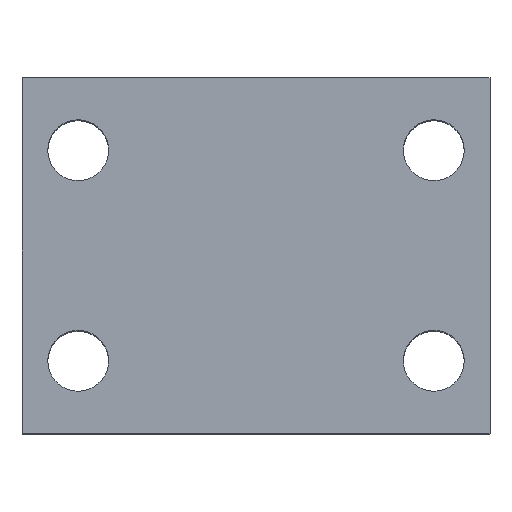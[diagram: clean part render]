
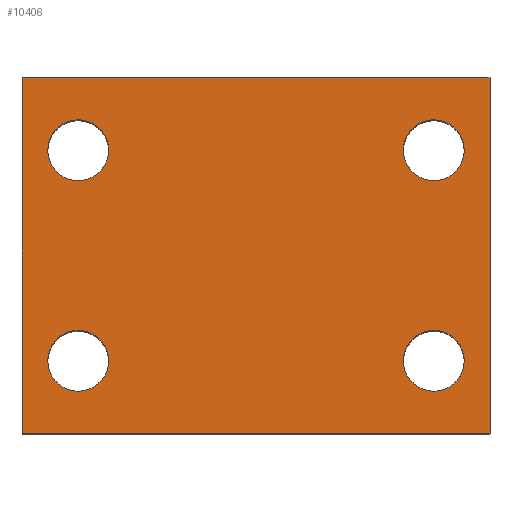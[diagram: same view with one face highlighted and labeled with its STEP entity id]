
A CAD part, top view. The second image highlights one B-rep face of the part: STEP entity #10406.
In plain terms, the highlighted planar face has unit normal (0, 0, 1).
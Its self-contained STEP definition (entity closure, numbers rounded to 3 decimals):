
#95 = CARTESIAN_POINT ( 'NONE',  ( 50., 76., 47.5 ) ) ;
#120 = EDGE_LOOP ( 'NONE', ( #12432, #2793 ) ) ;
#144 = AXIS2_PLACEMENT_3D ( 'NONE', #7299, #1487, #8209 ) ;
#148 = AXIS2_PLACEMENT_3D ( 'NONE', #9127, #3470, #10070 ) ;
#190 = AXIS2_PLACEMENT_3D ( 'NONE', #11857, #6432, #449 ) ;
#202 = AXIS2_PLACEMENT_3D ( 'NONE', #2963, #7089, #10359 ) ;
#217 = AXIS2_PLACEMENT_3D ( 'NONE', #349, #7261, #1444 ) ;
#244 = CARTESIAN_POINT ( 'NONE',  ( -50., 76., 47.5 ) ) ;
#271 = AXIS2_PLACEMENT_3D ( 'NONE', #1449, #8168, #2463 ) ;
#290 = VERTEX_POINT ( 'NONE', #7504 ) ;
#349 = CARTESIAN_POINT ( 'NONE',  ( -38., 60.5, 47.5 ) ) ;
#360 = AXIS2_PLACEMENT_3D ( 'NONE', #6889, #998, #7795 ) ;
#442 = CARTESIAN_POINT ( 'NONE',  ( 44.5, 15.5, 47.5 ) ) ;
#449 = DIRECTION ( 'NONE',  ( -1., 0., 0. ) ) ;
#464 = AXIS2_PLACEMENT_3D ( 'NONE', #8250, #2565, #9226 ) ;
#579 = VERTEX_POINT ( 'NONE', #95 ) ;
#600 = VERTEX_POINT ( 'NONE', #6963 ) ;
#998 = DIRECTION ( 'NONE',  ( 0., 0., -1. ) ) ;
#1107 = ORIENTED_EDGE ( 'NONE', *, *, #7814, .T. ) ;
#1126 = CIRCLE ( 'NONE', #202, 6.5 ) ;
#1250 = VECTOR ( 'NONE', #10165, 1000. ) ;
#1378 = ORIENTED_EDGE ( 'NONE', *, *, #7909, .T. ) ;
#1444 = DIRECTION ( 'NONE',  ( -1., 0., 0. ) ) ;
#1449 = CARTESIAN_POINT ( 'NONE',  ( -38., 15.5, 47.5 ) ) ;
#1487 = DIRECTION ( 'NONE',  ( 0., 0., -1. ) ) ;
#1528 = CARTESIAN_POINT ( 'NONE',  ( 50., 76., 47.5 ) ) ;
#1585 = CIRCLE ( 'NONE', #190, 6.5 ) ;
#1661 = AXIS2_PLACEMENT_3D ( 'NONE', #3100, #5115, #11570 ) ;
#1709 = FACE_BOUND ( 'NONE', #8834, .T. ) ;
#1853 = CARTESIAN_POINT ( 'NONE',  ( 44.5, 60.5, 47.5 ) ) ;
#1906 = CIRCLE ( 'NONE', #144, 6.5 ) ;
#2036 = FACE_BOUND ( 'NONE', #2037, .T. ) ;
#2037 = EDGE_LOOP ( 'NONE', ( #1378, #6553 ) ) ;
#2199 = ORIENTED_EDGE ( 'NONE', *, *, #5553, .F. ) ;
#2214 = VECTOR ( 'NONE', #12443, 1000. ) ;
#2268 = VERTEX_POINT ( 'NONE', #442 ) ;
#2426 = ORIENTED_EDGE ( 'NONE', *, *, #7893, .T. ) ;
#2463 = DIRECTION ( 'NONE',  ( -1., 0., 0. ) ) ;
#2547 = LINE ( 'NONE', #244, #2214 ) ;
#2565 = DIRECTION ( 'NONE',  ( 0., 0., -1. ) ) ;
#2743 = ORIENTED_EDGE ( 'NONE', *, *, #5965, .T. ) ;
#2793 = ORIENTED_EDGE ( 'NONE', *, *, #6068, .T. ) ;
#2894 = CIRCLE ( 'NONE', #148, 6.5 ) ;
#2963 = CARTESIAN_POINT ( 'NONE',  ( 38., 15.5, 47.5 ) ) ;
#3100 = CARTESIAN_POINT ( 'NONE',  ( -50., 76., 47.5 ) ) ;
#3470 = DIRECTION ( 'NONE',  ( 0., 0., -1. ) ) ;
#3646 = VERTEX_POINT ( 'NONE', #4875 ) ;
#3770 = ORIENTED_EDGE ( 'NONE', *, *, #7926, .F. ) ;
#3987 = ORIENTED_EDGE ( 'NONE', *, *, #6171, .T. ) ;
#4103 = VERTEX_POINT ( 'NONE', #12014 ) ;
#4238 = CIRCLE ( 'NONE', #464, 6.5 ) ;
#4364 = FACE_BOUND ( 'NONE', #9662, .T. ) ;
#4623 = CARTESIAN_POINT ( 'NONE',  ( -31.5, 60.5, 47.5 ) ) ;
#4875 = CARTESIAN_POINT ( 'NONE',  ( -50., 0., 47.5 ) ) ;
#5115 = DIRECTION ( 'NONE',  ( 0., 0., -1. ) ) ;
#5176 = LINE ( 'NONE', #6585, #12220 ) ;
#5269 = CARTESIAN_POINT ( 'NONE',  ( -50., 76., 47.5 ) ) ;
#5553 = EDGE_CURVE ( 'NONE', #12223, #579, #5176, .T. ) ;
#5965 = EDGE_CURVE ( 'NONE', #6824, #4103, #7815, .T. ) ;
#6028 = PLANE ( 'NONE',  #1661 ) ;
#6068 = EDGE_CURVE ( 'NONE', #7755, #600, #9135, .T. ) ;
#6118 = ORIENTED_EDGE ( 'NONE', *, *, #7912, .T. ) ;
#6171 = EDGE_CURVE ( 'NONE', #2268, #290, #1126, .T. ) ;
#6243 = EDGE_CURVE ( 'NONE', #6625, #7057, #2894, .T. ) ;
#6359 = VERTEX_POINT ( 'NONE', #9366 ) ;
#6432 = DIRECTION ( 'NONE',  ( 0., 0., -1. ) ) ;
#6505 = VECTOR ( 'NONE', #11023, 1000. ) ;
#6553 = ORIENTED_EDGE ( 'NONE', *, *, #6243, .T. ) ;
#6585 = CARTESIAN_POINT ( 'NONE',  ( -50., 76., 47.5 ) ) ;
#6625 = VERTEX_POINT ( 'NONE', #1853 ) ;
#6824 = VERTEX_POINT ( 'NONE', #4623 ) ;
#6889 = CARTESIAN_POINT ( 'NONE',  ( -38., 60.5, 47.5 ) ) ;
#6963 = CARTESIAN_POINT ( 'NONE',  ( -44.5, 15.5, 47.5 ) ) ;
#7057 = VERTEX_POINT ( 'NONE', #11318 ) ;
#7089 = DIRECTION ( 'NONE',  ( 0., 0., -1. ) ) ;
#7242 = ORIENTED_EDGE ( 'NONE', *, *, #7860, .T. ) ;
#7261 = DIRECTION ( 'NONE',  ( 0., 0., -1. ) ) ;
#7299 = CARTESIAN_POINT ( 'NONE',  ( -38., 15.5, 47.5 ) ) ;
#7504 = CARTESIAN_POINT ( 'NONE',  ( 31.5, 15.5, 47.5 ) ) ;
#7755 = VERTEX_POINT ( 'NONE', #10677 ) ;
#7790 = EDGE_LOOP ( 'NONE', ( #6118, #3770, #2199, #1107 ) ) ;
#7795 = DIRECTION ( 'NONE',  ( -1., 0., 0. ) ) ;
#7814 = EDGE_CURVE ( 'NONE', #12223, #3646, #2547, .T. ) ;
#7815 = CIRCLE ( 'NONE', #360, 6.5 ) ;
#7860 = EDGE_CURVE ( 'NONE', #4103, #6824, #11889, .T. ) ;
#7880 = EDGE_CURVE ( 'NONE', #600, #7755, #1906, .T. ) ;
#7893 = EDGE_CURVE ( 'NONE', #290, #2268, #1585, .T. ) ;
#7909 = EDGE_CURVE ( 'NONE', #7057, #6625, #4238, .T. ) ;
#7912 = EDGE_CURVE ( 'NONE', #3646, #6359, #9255, .T. ) ;
#7926 = EDGE_CURVE ( 'NONE', #579, #6359, #11378, .T. ) ;
#8168 = DIRECTION ( 'NONE',  ( 0., 0., -1. ) ) ;
#8209 = DIRECTION ( 'NONE',  ( -1., 0., 0. ) ) ;
#8250 = CARTESIAN_POINT ( 'NONE',  ( 38., 60.5, 47.5 ) ) ;
#8834 = EDGE_LOOP ( 'NONE', ( #2426, #3987 ) ) ;
#9074 = FACE_OUTER_BOUND ( 'NONE', #7790, .T. ) ;
#9127 = CARTESIAN_POINT ( 'NONE',  ( 38., 60.5, 47.5 ) ) ;
#9135 = CIRCLE ( 'NONE', #271, 6.5 ) ;
#9226 = DIRECTION ( 'NONE',  ( -1., 0., 0. ) ) ;
#9255 = LINE ( 'NONE', #10984, #6505 ) ;
#9366 = CARTESIAN_POINT ( 'NONE',  ( 50., 0., 47.5 ) ) ;
#9662 = EDGE_LOOP ( 'NONE', ( #7242, #2743 ) ) ;
#10070 = DIRECTION ( 'NONE',  ( -1., 0., 0. ) ) ;
#10165 = DIRECTION ( 'NONE',  ( 0., -1., 0. ) ) ;
#10264 = DIRECTION ( 'NONE',  ( 1., 0., 0. ) ) ;
#10359 = DIRECTION ( 'NONE',  ( -1., 0., 0. ) ) ;
#10406 = ADVANCED_FACE ( 'NONE', ( #4364, #11481, #1709, #2036, #9074 ), #6028, .F. ) ;
#10677 = CARTESIAN_POINT ( 'NONE',  ( -31.5, 15.5, 47.5 ) ) ;
#10984 = CARTESIAN_POINT ( 'NONE',  ( -50., 0., 47.5 ) ) ;
#11023 = DIRECTION ( 'NONE',  ( 1., 0., 0. ) ) ;
#11318 = CARTESIAN_POINT ( 'NONE',  ( 31.5, 60.5, 47.5 ) ) ;
#11378 = LINE ( 'NONE', #1528, #1250 ) ;
#11481 = FACE_BOUND ( 'NONE', #120, .T. ) ;
#11570 = DIRECTION ( 'NONE',  ( -1., 0., 0. ) ) ;
#11857 = CARTESIAN_POINT ( 'NONE',  ( 38., 15.5, 47.5 ) ) ;
#11889 = CIRCLE ( 'NONE', #217, 6.5 ) ;
#12014 = CARTESIAN_POINT ( 'NONE',  ( -44.5, 60.5, 47.5 ) ) ;
#12220 = VECTOR ( 'NONE', #10264, 1000. ) ;
#12223 = VERTEX_POINT ( 'NONE', #5269 ) ;
#12432 = ORIENTED_EDGE ( 'NONE', *, *, #7880, .T. ) ;
#12443 = DIRECTION ( 'NONE',  ( 0., -1., 0. ) ) ;
